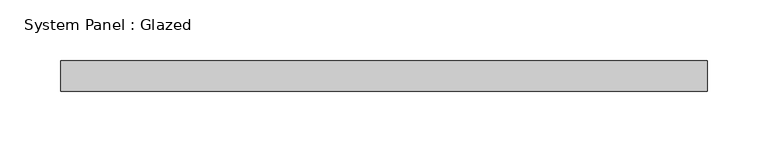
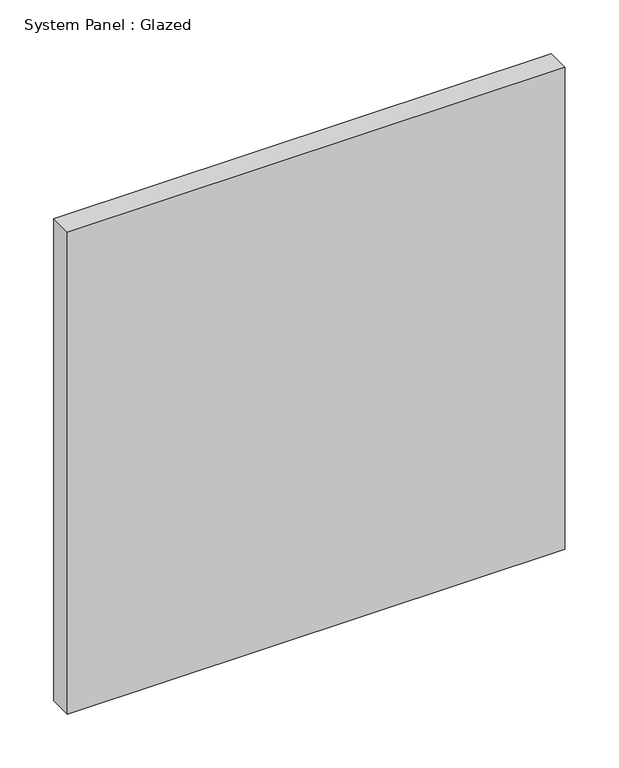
"""IFC4 building model written with IfcOpenShell, lengths in millimetres: plate geometry, System Panel : Glazed."""

from ifc_helpers import new_model, si_unit, origin, origin_with_axes, place, context, project, spatial, polyline, outline, extrude, source, transform, mapped, element, save


def system_panel_glazed_0e0c2a18(model_context):
    return source(origin(), model_context, "Body", "SweptSolid", [
        extrude(outline(polyline([(266.0950031, -12.5), (-266.0950031, -12.5), (-266.0950031, 12.5), (266.0950031, 12.5), (266.0950031, -12.5)])), origin_with_axes(), (0.0, 0.0, 1.0), 545.0),
    ])


if __name__ == "__main__":
    model = new_model("IFC4")
    model_context = context("Model", 3, world=origin())
    ifc_project = project(units=[si_unit("LENGTHUNIT", "METRE", prefix="MILLI")], contexts=[model_context])
    site = spatial("IfcSite", under=ifc_project)
    building = spatial("IfcBuilding", under=site)
    placement = place(None, origin())
    system_panel_glazed_shape = system_panel_glazed_0e0c2a18(model_context)
    element("IfcPlate", 1, ObjectType="System Panel : Glazed", at=placement, inside=building, context=model_context, shape_type="MappedRepresentation", body=[
        mapped(system_panel_glazed_shape, transform((0.0, 0.0, 0.0), x_axis=(1.0, 0.0, 0.0), y_axis=(0.0, 1.0, 0.0), z_axis=(0.0, 0.0, 1.0))),
    ])
    save(model, "model.ifc")
